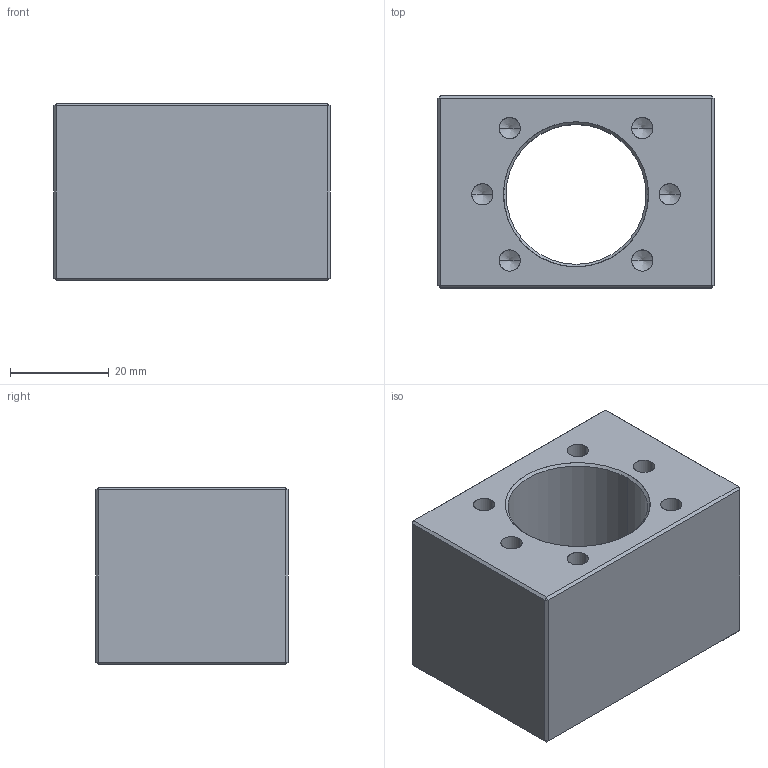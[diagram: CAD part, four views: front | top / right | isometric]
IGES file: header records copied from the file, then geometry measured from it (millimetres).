
Start section: SolidWorks IGES file using analytic representation for surfaces
Bounding box: 56 x 39 x 36 mm (x, y, z)
Surface area: 15135.5 mm2 (no closed solid volume)
Topology: 0 solids, 0 shells, 72 faces, 728 edges, 708 vertices
Faces by surface type: revolution 46, bspline 26
